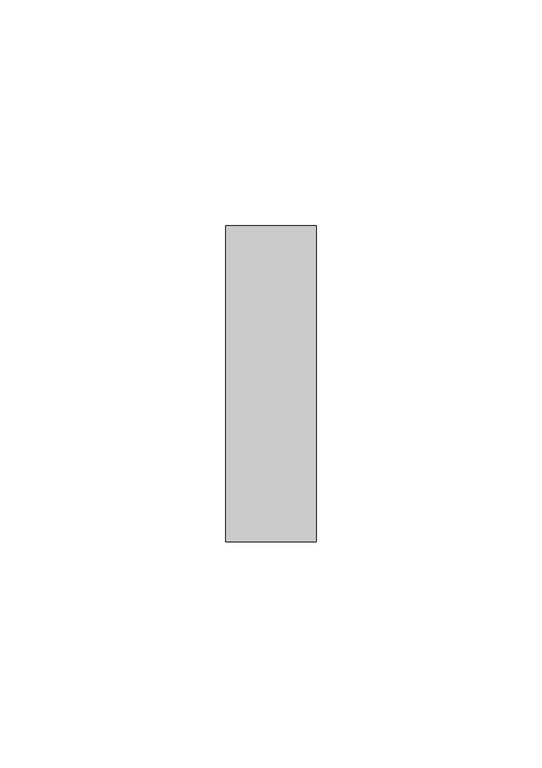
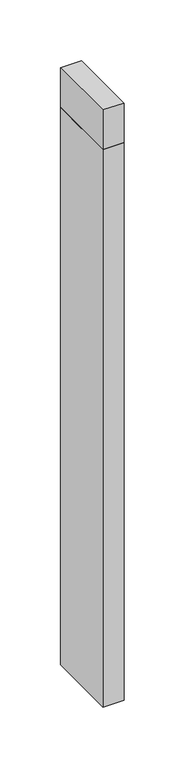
"""IFC4 building model written with IfcOpenShell, lengths in millimetres: plate geometry, 営_パーティションパネル_上部 : パーティションパネル_上部."""

from ifc_helpers import new_model, si_unit, frame, origin, origin_with_axes, place, context, project, spatial, polyline, outline, extrude, source, transform, mapped, element, save


def plate_d83be5bd(model_context):
    return source(origin(), model_context, "Body", "SweptSolid", [
        extrude(outline(polyline([(-10.0, -35.0), (-10.0, 35.0), (10.0, 35.0), (10.0, -35.0), (-10.0, -35.0)])), origin_with_axes(), (0.0, 0.0, 1.0), 560.0),
        extrude(outline(polyline([(-10.0, -35.0), (-10.0, 35.0), (10.0, 35.0), (10.0, -35.0), (-10.0, -35.0)])), frame((0.0, 0.0, 560.0), z_axis=(0.0, 0.0, 1.0), x_axis=(1.0, 0.0, 0.0)), (0.0, 0.0, 1.0), 40.0),
    ])


if __name__ == "__main__":
    model = new_model("IFC4")
    model_context = context("Model", 3, world=origin())
    ifc_project = project(units=[si_unit("LENGTHUNIT", "METRE", prefix="MILLI")], contexts=[model_context])
    site = spatial("IfcSite", under=ifc_project)
    building = spatial("IfcBuilding", under=site)
    placement = place(None, origin())
    plate_shape = plate_d83be5bd(model_context)
    element("IfcPlate", 1, ObjectType="営_パーティションパネル_上部 : パーティションパネル_上部", at=placement, inside=building, context=model_context, shape_type="MappedRepresentation", body=[
        mapped(plate_shape, transform((0.0, 0.0, 0.0), x_axis=(1.0, 0.0, 0.0), y_axis=(0.0, 1.0, 0.0), z_axis=(0.0, 0.0, 1.0))),
    ])
    save(model, "model.ifc")
